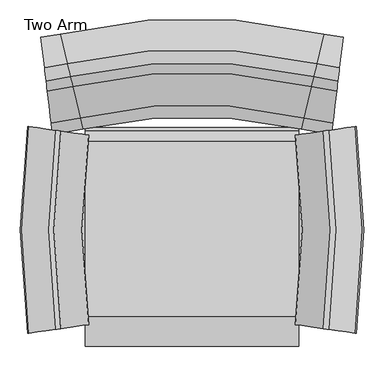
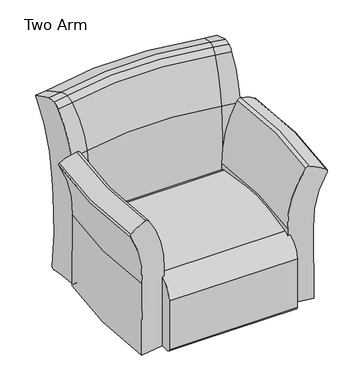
"""IFC4 building model written with IfcOpenShell, lengths in millimetres: furniture geometry, Steelcase Turnstone - Jenny - Seating - Lounge Chair : Two Arm."""

from ifc_helpers import new_model, si_unit, point, frame, frame_2d, origin, place, context, project, spatial, circle_curve, ellipse_curve, trimmed, segment, composite_curve, outline, extrude, source, transform, mapped, element, save
from ifc_brep_helpers import plane_surface, revolved_surface, advanced_brep


def two_arm_6be0adb5(model_context):
    return source(origin(), model_context, "Body", "SolidModel", [
        advanced_brep(
        [(338.5098126, 42.3528445, 662.4789574), (325.4819287, 44.2201227, 657.247673), (255.8979101, 54.1935554, 412.3486316), (248.568241, 55.2441122, 105.3934367), (268.92915, 52.3257962, 83.0261095), (356.1641561, 39.8224588, 83.0261095), (353.9234318, 40.1436204, 393.5179242), (406.2890311, 32.6380926, 620.5062548), (403.9913356, 32.9674199, 631.6323761), (338.5098126, 536.0945997, 662.4789574), (403.9913356, 545.4800243, 631.6323761), (406.2890311, 545.8093515, 620.5062548), (353.9234318, 538.3038238, 393.5179242), (356.1641561, 538.6249854, 83.0261095), (268.92915, 526.121648, 83.0261095), (248.568241, 523.203332, 105.3934367), (255.8979101, 524.2538887, 412.3486316), (325.4819287, 534.2273214, 657.247673)],
        [
            (0, 1, circle_curve(frame((335.7972968, 42.7416276, 650.2018378), z_axis=(-0.1418794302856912, -0.989883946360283, 0.0), x_axis=(-0.989883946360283, 0.1418794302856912, 0.0)), 12.5792115)),
            (1, 2, circle_curve(frame((662.6674144, -4.1084564, 426.9356418), z_axis=(-0.1418794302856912, -0.989883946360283, 0.0), x_axis=(-0.989883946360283, 0.1418794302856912, 0.0)), 411.1852807)),
            (2, 3, circle_curve(frame((-2293.785101, 419.6379839, 320.9153954), z_axis=(0.1418794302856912, 0.989883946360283, 0.0), x_axis=(-0.989883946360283, 0.1418794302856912, 0.0)), 2577.3616595)),
            (3, 4, circle_curve(frame((268.92915, 52.3257962, 103.6673891), z_axis=(-0.1418794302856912, -0.989883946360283, 0.0), x_axis=(-0.989883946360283, 0.1418794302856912, 0.0)), 20.6412796)),
            (4, 5),
            (5, 6, circle_curve(frame((-3376.7467903, 574.8581873, 210.7875713), z_axis=(-0.1418794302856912, -0.989883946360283, 0.0), x_axis=(-0.989883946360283, 0.1418794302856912, 0.0)), 3773.2228077)),
            (6, 7, circle_curve(frame((774.6383733, -20.157182, 414.1247817), z_axis=(0.1418794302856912, 0.989883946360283, 0.0), x_axis=(-0.989883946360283, 0.1418794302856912, 0.0)), 425.5136794)),
            (7, 8, circle_curve(frame((398.7600293, 33.7172196, 624.7246592), z_axis=(-0.1418794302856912, -0.989883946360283, 0.0), x_axis=(-0.989883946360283, 0.1418794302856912, 0.0)), 8.6974317)),
            (8, 0, circle_curve(frame((301.9143064, 47.5980549, 496.8440116), z_axis=(-0.1418794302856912, -0.989883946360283, 0.0), x_axis=(-0.989883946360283, 0.1418794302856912, 0.0)), 169.710573)),
            (9, 10, circle_curve(frame((301.9143064, 530.8493893, 496.8440116), z_axis=(-0.14187943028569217, 0.9898839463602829, 0.0), x_axis=(-0.9898839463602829, -0.14187943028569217, 0.0)), 169.710573)),
            (10, 11, circle_curve(frame((398.7600293, 544.7302245, 624.7246592), z_axis=(-0.14187943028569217, 0.9898839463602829, 0.0), x_axis=(-0.9898839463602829, -0.14187943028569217, 0.0)), 8.6974317)),
            (11, 12, circle_curve(frame((774.6383733, 598.6046262, 414.1247817), z_axis=(0.14187943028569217, -0.9898839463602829, 0.0), x_axis=(-0.9898839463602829, -0.14187943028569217, 0.0)), 425.5136794)),
            (12, 13, circle_curve(frame((-3376.7467903, 3.5892569, 210.7875713), z_axis=(-0.14187943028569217, 0.9898839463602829, 0.0), x_axis=(-0.9898839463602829, -0.14187943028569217, 0.0)), 3773.2228077)),
            (13, 14),
            (14, 15, circle_curve(frame((268.92915, 526.121648, 103.6673891), z_axis=(-0.14187943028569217, 0.9898839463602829, 0.0), x_axis=(-0.9898839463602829, -0.14187943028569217, 0.0)), 20.6412796)),
            (15, 16, circle_curve(frame((-2293.785101, 158.8094603, 320.9153954), z_axis=(0.14187943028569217, -0.9898839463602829, 0.0), x_axis=(-0.9898839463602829, -0.14187943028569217, 0.0)), 2577.3616595)),
            (16, 17, circle_curve(frame((662.6674144, 582.5559005, 426.9356418), z_axis=(-0.14187943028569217, 0.9898839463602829, 0.0), x_axis=(-0.9898839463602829, -0.14187943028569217, 0.0)), 411.1852807)),
            (17, 9, circle_curve(frame((335.7972968, 535.7058165, 650.2018378), z_axis=(-0.14187943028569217, 0.9898839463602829, 0.0), x_axis=(-0.9898839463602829, -0.14187943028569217, 0.0)), 12.5792115)),
            (17, 1, circle_curve(frame((-1383.8929209, 289.2237221, 657.247673), z_axis=(0.0, 0.0, -1.0), x_axis=(0.989883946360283, -0.1418794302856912, 0.0)), 1726.8436929)),
            (0, 9, circle_curve(frame((-1383.8929209, 289.2237221, 662.4789574), z_axis=(0.0, 0.0, 1.0), x_axis=(0.989883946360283, -0.1418794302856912, 0.0)), 1740.0047145)),
            (16, 2, circle_curve(frame((-1383.8929209, 289.2237221, 412.3486316), z_axis=(0.0, 0.0, -1.0), x_axis=(0.989883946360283, -0.1418794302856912, 0.0)), 1656.5485651)),
            (15, 3, circle_curve(frame((-1383.8929209, 289.2237221, 105.3934367), z_axis=(0.0, 0.0, -1.0), x_axis=(0.989883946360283, -0.1418794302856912, 0.0)), 1649.1439909)),
            (14, 4, circle_curve(frame((-1383.8929209, 289.2237221, 83.0261095), z_axis=(0.0, 0.0, -1.0), x_axis=(0.989883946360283, -0.1418794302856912, 0.0)), 1669.7129769)),
            (13, 5, circle_curve(frame((-1383.8929209, 289.2237221, 83.0261095), z_axis=(0.0, 0.0, -1.0), x_axis=(0.989883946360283, -0.1418794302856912, 0.0)), 1757.8394754)),
            (12, 6, circle_curve(frame((-1383.8929209, 289.2237221, 393.5179242), z_axis=(0.0, 0.0, -1.0), x_axis=(0.989883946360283, -0.1418794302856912, 0.0)), 1755.5758521)),
            (11, 7, circle_curve(frame((-1383.8929209, 289.2237221, 620.5062548), z_axis=(0.0, 0.0, -1.0), x_axis=(0.989883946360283, -0.1418794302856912, 0.0)), 1808.4765982)),
            (10, 8, circle_curve(frame((-1383.8929209, 289.2237221, 631.6323761), z_axis=(0.0, 0.0, -1.0), x_axis=(0.989883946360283, -0.1418794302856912, 0.0)), 1806.1554216)),
        ],
        [
            plane_surface(frame((321.793924, 44.7487221, 0.0), z_axis=(-0.14187943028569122, -0.9898839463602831, 0.0), x_axis=(0.0, 0.0, 1.0))),
            plane_surface(frame((321.793924, 533.6987221, 0.0), z_axis=(-0.1418794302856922, 0.9898839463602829, 0.0), x_axis=(0.0, 0.0, 1.0))),
            revolved_surface(trimmed(ellipse_curve(frame((335.7972968, 42.7416276, 650.2018378), z_axis=(-0.1418794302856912, -0.989883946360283, 0.0), x_axis=(-0.989883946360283, 0.1418794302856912, 0.0)), 12.5792115, 12.5792115), [point((338.5098126, 42.3528445, 662.4789574))], [point((325.4819287, 44.2201227, 657.247673))], True, "CARTESIAN"), (-1383.8929209, 289.2237221, 0.0), (0.0, 0.0, 1.0)),
            revolved_surface(trimmed(ellipse_curve(frame((662.6674144, -4.1084564, 426.9356418), z_axis=(-0.1418794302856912, -0.989883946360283, 0.0), x_axis=(-0.989883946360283, 0.1418794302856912, 0.0)), 411.1852807, 411.1852807), [point((325.4819287, 44.2201227, 657.247673))], [point((255.8979101, 54.1935554, 412.3486316))], True, "CARTESIAN"), (-1383.8929209, 289.2237221, 0.0), (0.0, 0.0, 1.0)),
            revolved_surface(trimmed(ellipse_curve(frame((-2293.785101, 419.6379839, 320.9153954), z_axis=(0.1418794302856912, 0.989883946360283, 0.0), x_axis=(-0.989883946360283, 0.1418794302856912, 0.0)), 2577.3616595, 2577.3616595), [point((255.8979101, 54.1935554, 412.3486316))], [point((248.568241, 55.2441122, 105.3934367))], True, "CARTESIAN"), (-1383.8929209, 289.2237221, 0.0), (0.0, 0.0, 1.0)),
            revolved_surface(trimmed(ellipse_curve(frame((268.92915, 52.3257962, 103.6673891), z_axis=(-0.1418794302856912, -0.989883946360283, 0.0), x_axis=(-0.989883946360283, 0.1418794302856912, 0.0)), 20.6412796, 20.6412796), [point((248.568241, 55.2441122, 105.3934367))], [point((268.92915, 52.3257962, 83.0261095))], True, "CARTESIAN"), (-1383.8929209, 289.2237221, 0.0), (0.0, 0.0, 1.0)),
            plane_surface(frame((-1383.8929209, 289.2237221, 83.0261095), z_axis=(0.0, 0.0, -1.0000000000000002), x_axis=(0.9898839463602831, -0.14187943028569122, 0.0))),
            revolved_surface(trimmed(ellipse_curve(frame((-3376.7467903, 574.8581873, 210.7875713), z_axis=(-0.1418794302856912, -0.989883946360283, 0.0), x_axis=(-0.989883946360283, 0.1418794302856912, 0.0)), 3773.2228077, 3773.2228077), [point((356.1641561, 39.8224588, 83.0261095))], [point((353.9234318, 40.1436204, 393.5179242))], True, "CARTESIAN"), (-1383.8929209, 289.2237221, 0.0), (0.0, 0.0, 1.0)),
            revolved_surface(trimmed(ellipse_curve(frame((774.6383733, -20.157182, 414.1247817), z_axis=(0.1418794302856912, 0.989883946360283, 0.0), x_axis=(-0.989883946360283, 0.1418794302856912, 0.0)), 425.5136794, 425.5136794), [point((353.9234318, 40.1436204, 393.5179242))], [point((406.2890311, 32.6380926, 620.5062548))], True, "CARTESIAN"), (-1383.8929209, 289.2237221, 0.0), (0.0, 0.0, 1.0)),
            revolved_surface(trimmed(ellipse_curve(frame((398.7600293, 33.7172196, 624.7246592), z_axis=(-0.1418794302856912, -0.989883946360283, 0.0), x_axis=(-0.989883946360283, 0.1418794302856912, 0.0)), 8.6974317, 8.6974317), [point((406.2890311, 32.6380926, 620.5062548))], [point((403.9913356, 32.9674199, 631.6323761))], True, "CARTESIAN"), (-1383.8929209, 289.2237221, 0.0), (0.0, 0.0, 1.0)),
            revolved_surface(trimmed(ellipse_curve(frame((301.9143064, 47.5980549, 496.8440116), z_axis=(-0.1418794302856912, -0.989883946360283, 0.0), x_axis=(-0.989883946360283, 0.1418794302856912, 0.0)), 169.710573, 169.710573), [point((403.9913356, 32.9674199, 631.6323761))], [point((338.5098126, 42.3528445, 662.4789574))], True, "CARTESIAN"), (-1383.8929209, 289.2237221, 0.0), (0.0, 0.0, 1.0)),
        ],
        [
            (0, [[1, 2, 3, 4, 5, 6, 7, 8, 9]]),
            (1, [[10, 11, 12, 13, 14, 15, 16, 17, 18]]),
            (2, [[19, -1, 20, -18]]),
            (3, [[21, -2, -19, -17]]),
            (4, [[22, -3, -21, -16]]),
            (5, [[23, -4, -22, -15]]),
            (6, [[24, -5, -23, -14]]),
            (7, [[25, -6, -24, -13]]),
            (8, [[26, -7, -25, -12]]),
            (9, [[27, -8, -26, -11]]),
            (10, [[-20, -9, -27, -10]]),
        ],
    ),
        advanced_brep(
        [(-338.5098126, 42.3528445, 662.4789574), (-403.9913356, 32.9674199, 631.6323761), (-406.2890311, 32.6380926, 620.5062548), (-353.9234318, 40.1436204, 393.5179242), (-356.1641561, 39.8224588, 83.0261095), (-268.92915, 52.3257962, 83.0261095), (-248.568241, 55.2441122, 105.3934367), (-255.8979101, 54.1935554, 412.3486316), (-325.4819287, 44.2201227, 657.247673), (-338.5098126, 536.0945997, 662.4789574), (-325.4819287, 534.2273214, 657.247673), (-255.8979101, 524.2538887, 412.3486316), (-248.568241, 523.203332, 105.3934367), (-268.92915, 526.121648, 83.0261095), (-356.1641561, 538.6249854, 83.0261095), (-353.9234318, 538.3038238, 393.5179242), (-406.2890311, 545.8093515, 620.5062548), (-403.9913356, 545.4800243, 631.6323761)],
        [
            (0, 1, circle_curve(frame((-301.9143064, 47.5980549, 496.8440116), z_axis=(0.1418794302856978, -0.9898839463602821, 0.0), x_axis=(-0.9898839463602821, -0.1418794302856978, 0.0)), 169.710573)),
            (1, 2, circle_curve(frame((-398.7600293, 33.7172196, 624.7246592), z_axis=(0.1418794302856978, -0.9898839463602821, 0.0), x_axis=(-0.9898839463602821, -0.1418794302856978, 0.0)), 8.6974317)),
            (2, 3, circle_curve(frame((-774.6383733, -20.157182, 414.1247817), z_axis=(-0.1418794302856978, 0.9898839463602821, 0.0), x_axis=(-0.9898839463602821, -0.1418794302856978, 0.0)), 425.5136794)),
            (3, 4, circle_curve(frame((3376.7467903, 574.8581873, 210.7875713), z_axis=(0.1418794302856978, -0.9898839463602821, 0.0), x_axis=(-0.9898839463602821, -0.1418794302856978, 0.0)), 3773.2228077)),
            (4, 5),
            (5, 6, circle_curve(frame((-268.92915, 52.3257962, 103.6673891), z_axis=(0.1418794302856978, -0.9898839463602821, 0.0), x_axis=(-0.9898839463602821, -0.1418794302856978, 0.0)), 20.6412796)),
            (6, 7, circle_curve(frame((2293.785101, 419.6379839, 320.9153954), z_axis=(-0.1418794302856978, 0.9898839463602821, 0.0), x_axis=(-0.9898839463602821, -0.1418794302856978, 0.0)), 2577.3616595)),
            (7, 8, circle_curve(frame((-662.6674144, -4.1084564, 426.9356418), z_axis=(0.1418794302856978, -0.9898839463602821, 0.0), x_axis=(-0.9898839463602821, -0.1418794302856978, 0.0)), 411.1852807)),
            (8, 0, circle_curve(frame((-335.7972968, 42.7416276, 650.2018378), z_axis=(0.1418794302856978, -0.9898839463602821, 0.0), x_axis=(-0.9898839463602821, -0.1418794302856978, 0.0)), 12.5792115)),
            (9, 10, circle_curve(frame((-335.7972968, 535.7058165, 650.2018378), z_axis=(0.1418794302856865, 0.9898839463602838, 0.0), x_axis=(-0.9898839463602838, 0.1418794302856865, 0.0)), 12.5792115)),
            (10, 11, circle_curve(frame((-662.6674144, 582.5559005, 426.9356418), z_axis=(0.1418794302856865, 0.9898839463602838, 0.0), x_axis=(-0.9898839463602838, 0.1418794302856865, 0.0)), 411.1852807)),
            (11, 12, circle_curve(frame((2293.785101, 158.8094603, 320.9153954), z_axis=(-0.1418794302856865, -0.9898839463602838, 0.0), x_axis=(-0.9898839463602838, 0.1418794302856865, 0.0)), 2577.3616595)),
            (12, 13, circle_curve(frame((-268.92915, 526.121648, 103.6673891), z_axis=(0.1418794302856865, 0.9898839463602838, 0.0), x_axis=(-0.9898839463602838, 0.1418794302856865, 0.0)), 20.6412796)),
            (13, 14),
            (14, 15, circle_curve(frame((3376.7467903, 3.5892569, 210.7875713), z_axis=(0.1418794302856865, 0.9898839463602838, 0.0), x_axis=(-0.9898839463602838, 0.1418794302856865, 0.0)), 3773.2228077)),
            (15, 16, circle_curve(frame((-774.6383733, 598.6046262, 414.1247817), z_axis=(-0.1418794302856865, -0.9898839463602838, 0.0), x_axis=(-0.9898839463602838, 0.1418794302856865, 0.0)), 425.5136794)),
            (16, 17, circle_curve(frame((-398.7600293, 544.7302245, 624.7246592), z_axis=(0.1418794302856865, 0.9898839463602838, 0.0), x_axis=(-0.9898839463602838, 0.1418794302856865, 0.0)), 8.6974317)),
            (17, 9, circle_curve(frame((-301.9143064, 530.8493893, 496.8440116), z_axis=(0.1418794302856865, 0.9898839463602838, 0.0), x_axis=(-0.9898839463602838, 0.1418794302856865, 0.0)), 169.710573)),
            (17, 1, circle_curve(frame((1383.8929209, 289.2237221, 631.6323761), z_axis=(0.0, 0.0, 1.0), x_axis=(-0.9898839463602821, -0.1418794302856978, 0.0)), 1806.1554216)),
            (0, 9, circle_curve(frame((1383.8929209, 289.2237221, 662.4789574), z_axis=(0.0, 0.0, -1.0), x_axis=(-0.9898839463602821, -0.1418794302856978, 0.0)), 1740.0047145)),
            (16, 2, circle_curve(frame((1383.8929209, 289.2237221, 620.5062548), z_axis=(0.0, 0.0, 1.0), x_axis=(-0.9898839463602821, -0.1418794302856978, 0.0)), 1808.4765982)),
            (15, 3, circle_curve(frame((1383.8929209, 289.2237221, 393.5179242), z_axis=(0.0, 0.0, 1.0), x_axis=(-0.9898839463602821, -0.1418794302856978, 0.0)), 1755.5758521)),
            (14, 4, circle_curve(frame((1383.8929209, 289.2237221, 83.0261095), z_axis=(0.0, 0.0, 1.0), x_axis=(-0.9898839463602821, -0.1418794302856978, 0.0)), 1757.8394754)),
            (13, 5, circle_curve(frame((1383.8929209, 289.2237221, 83.0261095), z_axis=(0.0, 0.0, 1.0), x_axis=(-0.9898839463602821, -0.1418794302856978, 0.0)), 1669.7129769)),
            (12, 6, circle_curve(frame((1383.8929209, 289.2237221, 105.3934367), z_axis=(0.0, 0.0, 1.0), x_axis=(-0.9898839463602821, -0.1418794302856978, 0.0)), 1649.1439909)),
            (11, 7, circle_curve(frame((1383.8929209, 289.2237221, 412.3486316), z_axis=(0.0, 0.0, 1.0), x_axis=(-0.9898839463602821, -0.1418794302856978, 0.0)), 1656.5485651)),
            (10, 8, circle_curve(frame((1383.8929209, 289.2237221, 657.247673), z_axis=(0.0, 0.0, 1.0), x_axis=(-0.9898839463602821, -0.1418794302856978, 0.0)), 1726.8436929)),
        ],
        [
            plane_surface(frame((-321.793924, 44.7487221, 0.0), z_axis=(0.1418794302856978, -0.9898839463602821, 0.0), x_axis=(0.0, 0.0, 1.0))),
            plane_surface(frame((-321.793924, 533.6987221, 0.0), z_axis=(0.1418794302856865, 0.9898839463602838, 0.0), x_axis=(0.0, 0.0, 1.0))),
            revolved_surface(trimmed(ellipse_curve(frame((-301.9143064, 47.5980549, 496.8440116), z_axis=(0.1418794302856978, -0.9898839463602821, 0.0), x_axis=(-0.9898839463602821, -0.1418794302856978, 0.0)), 169.710573, 169.710573), [point((-338.5098126, 42.3528445, 662.4789574))], [point((-403.9913356, 32.9674199, 631.6323761))], True, "CARTESIAN"), (1383.8929209, 289.2237221, 0.0), (0.0, 0.0, -1.0)),
            revolved_surface(trimmed(ellipse_curve(frame((-398.7600293, 33.7172196, 624.7246592), z_axis=(0.1418794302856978, -0.9898839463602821, 0.0), x_axis=(-0.9898839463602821, -0.1418794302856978, 0.0)), 8.6974317, 8.6974317), [point((-403.9913356, 32.9674199, 631.6323761))], [point((-406.2890311, 32.6380926, 620.5062548))], True, "CARTESIAN"), (1383.8929209, 289.2237221, 0.0), (0.0, 0.0, -1.0)),
            revolved_surface(trimmed(ellipse_curve(frame((-774.6383733, -20.157182, 414.1247817), z_axis=(-0.1418794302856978, 0.9898839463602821, 0.0), x_axis=(-0.9898839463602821, -0.1418794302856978, 0.0)), 425.5136794, 425.5136794), [point((-406.2890311, 32.6380926, 620.5062548))], [point((-353.9234318, 40.1436204, 393.5179242))], True, "CARTESIAN"), (1383.8929209, 289.2237221, 0.0), (0.0, 0.0, -1.0)),
            revolved_surface(trimmed(ellipse_curve(frame((3376.7467903, 574.8581873, 210.7875713), z_axis=(0.1418794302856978, -0.9898839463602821, 0.0), x_axis=(-0.9898839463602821, -0.1418794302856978, 0.0)), 3773.2228077, 3773.2228077), [point((-353.9234318, 40.1436204, 393.5179242))], [point((-356.1641561, 39.8224588, 83.0261095))], True, "CARTESIAN"), (1383.8929209, 289.2237221, 0.0), (0.0, 0.0, -1.0)),
            plane_surface(frame((1383.8929209, 289.2237221, 83.0261095), z_axis=(0.0, 0.0, -1.0), x_axis=(-0.9898839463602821, -0.1418794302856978, 0.0))),
            revolved_surface(trimmed(ellipse_curve(frame((-268.92915, 52.3257962, 103.6673891), z_axis=(0.1418794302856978, -0.9898839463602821, 0.0), x_axis=(-0.9898839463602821, -0.1418794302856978, 0.0)), 20.6412796, 20.6412796), [point((-268.92915, 52.3257962, 83.0261095))], [point((-248.568241, 55.2441122, 105.3934367))], True, "CARTESIAN"), (1383.8929209, 289.2237221, 0.0), (0.0, 0.0, -1.0)),
            revolved_surface(trimmed(ellipse_curve(frame((2293.785101, 419.6379839, 320.9153954), z_axis=(-0.1418794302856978, 0.9898839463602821, 0.0), x_axis=(-0.9898839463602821, -0.1418794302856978, 0.0)), 2577.3616595, 2577.3616595), [point((-248.568241, 55.2441122, 105.3934367))], [point((-255.8979101, 54.1935554, 412.3486316))], True, "CARTESIAN"), (1383.8929209, 289.2237221, 0.0), (0.0, 0.0, -1.0)),
            revolved_surface(trimmed(ellipse_curve(frame((-662.6674144, -4.1084564, 426.9356418), z_axis=(0.1418794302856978, -0.9898839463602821, 0.0), x_axis=(-0.9898839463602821, -0.1418794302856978, 0.0)), 411.1852807, 411.1852807), [point((-255.8979101, 54.1935554, 412.3486316))], [point((-325.4819287, 44.2201227, 657.247673))], True, "CARTESIAN"), (1383.8929209, 289.2237221, 0.0), (0.0, 0.0, -1.0)),
            revolved_surface(trimmed(ellipse_curve(frame((-335.7972968, 42.7416276, 650.2018378), z_axis=(0.1418794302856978, -0.9898839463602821, 0.0), x_axis=(-0.9898839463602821, -0.1418794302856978, 0.0)), 12.5792115, 12.5792115), [point((-325.4819287, 44.2201227, 657.247673))], [point((-338.5098126, 42.3528445, 662.4789574))], True, "CARTESIAN"), (1383.8929209, 289.2237221, 0.0), (0.0, 0.0, -1.0)),
        ],
        [
            (0, [[1, 2, 3, 4, 5, 6, 7, 8, 9]]),
            (1, [[10, 11, 12, 13, 14, 15, 16, 17, 18]]),
            (2, [[19, -1, 20, -18]]),
            (3, [[21, -2, -19, -17]]),
            (4, [[22, -3, -21, -16]]),
            (5, [[23, -4, -22, -15]]),
            (6, [[24, -5, -23, -14]]),
            (7, [[25, -6, -24, -13]]),
            (8, [[26, -7, -25, -12]]),
            (9, [[27, -8, -26, -11]]),
            (10, [[-20, -9, -27, -10]]),
        ],
    ),
        extrude(outline(composite_curve([segment(trimmed(circle_curve(frame_2d((295.9448235, -1001.9734672)), 1409.8455938), [point((73.6948235, 390.2440215))], [point((509.3958902, 391.6201753))], False, "CARTESIAN"), True, "CONTINUOUS"), segment(trimmed(circle_curve(frame_2d((504.9855283, 362.825509)), 29.1304669), [point((509.3958902, 391.6201753))], [point((533.8942756, 366.4127691))], False, "CARTESIAN"), True, "CONTINUOUS"), segment(trimmed(circle_curve(frame_2d((-629.8512072, 222.0046519)), 1172.6709909), [point((533.8942756, 366.4127691))], [point((536.0042378, 95.7575362))], False, "CARTESIAN"), True, "CONTINUOUS"), segment(trimmed(circle_curve(frame_2d((523.173628, 97.1469259)), 12.9056171), [point((536.0042378, 95.7575362))], [point((523.4804674, 84.244957))], False, "CARTESIAN"), True, "CONTINUOUS"), segment(trimmed(circle_curve(frame_2d((320.8347088, 8605.0850806)), 8523.249481), [point((523.4804674, 84.244957))], [point((12.6556229, 87.4089088))], False, "CARTESIAN"), True, "CONTINUOUS"), segment(trimmed(circle_curve(frame_2d((13.132469, 100.5883266)), 13.1880413), [point((12.6556229, 87.4089088))], [point((0.0, 99.3789084))], False, "CARTESIAN"), True, "CONTINUOUS"), segment(trimmed(circle_curve(frame_2d((1151.5533041, 205.4297595)), 1156.4263034), [point((0.0, 99.3789084))], [point((0.0, 311.4806107))], False, "CARTESIAN"), True, "CONTINUOUS"), segment(trimmed(circle_curve(frame_2d((87.555619, 303.4172862)), 87.9261259), [point((0.0, 311.4806107))], [point((73.6948235, 390.2440215))], False, "CARTESIAN"), True, "CONTINUOUS")], self_intersect=False)), frame((-264.16, 0.0, 0.0), z_axis=(1.0, 0.0, 0.0), x_axis=(0.0, 1.0, 0.0)), (0.0, 0.0, 1.0), 529.082),
        advanced_brep(
        [(-365.286616, 691.4565759, 813.9027777), (-374.1581434, 766.5452606, 782.2939395), (-362.648411, 669.1267858, 474.5451921), (-361.9534589, 663.244705, 404.1661408), (-361.3770167, 658.3656933, 241.4197302), (-362.6146384, 668.8409343, 92.210125), (-361.3954165, 658.5214293, 82.3084573), (-349.0009614, 553.6146536, 81.9987921), (-346.7002803, 534.1416683, 97.0710008), (-349.0142051, 553.7267481, 627.8736036), (-358.4008193, 633.1751322, 797.7221008), (-361.3730638, 658.3322355, 814.4538477), (-326.9667617, 774.979302, 782.2939395), (-309.2801577, 701.4660474, 813.9027777), (-304.020535, 679.604757, 474.5451921), (-302.6350528, 673.8460877, 404.1661408), (-301.4858364, 669.0694421, 241.4197302), (-303.9532047, 679.3249029, 92.210125), (-301.5225189, 669.2219106, 82.3084573), (-276.8124763, 566.5161761, 81.9987921), (-272.2257535, 547.451752, 97.0710008), (-276.8388793, 566.6259188, 627.8736036), (-295.5523794, 644.4074023, 797.7221008), (-301.4779556, 669.0366863, 814.4538477), (326.9667617, 774.979302, 782.2939395), (309.2801577, 701.4660474, 813.9027777), (304.020535, 679.604757, 474.5451921), (302.6350528, 673.8460877, 404.1661408), (301.4858364, 669.0694421, 241.4197302), (303.9532047, 679.3249029, 92.210125), (301.5225189, 669.2219106, 82.3084573), (276.8124763, 566.5161761, 81.9987921), (272.2257535, 547.451752, 97.0710008), (276.8388793, 566.6259188, 627.8736036), (295.5523794, 644.4074023, 797.7221008), (301.4779556, 669.0366863, 814.4538477), (365.286616, 691.4565759, 813.9027777), (361.3730638, 658.3322355, 814.4538477), (358.4008193, 633.1751322, 797.7221008), (349.0142051, 553.7267481, 627.8736036), (346.7002803, 534.1416683, 97.0710008), (349.0009614, 553.6146536, 81.9987921), (361.3954165, 658.5214293, 82.3084573), (362.6146384, 668.8409343, 92.210125), (361.3770167, 658.3656933, 241.4197302), (361.9534589, 663.244705, 404.1661408), (362.648411, 669.1267858, 474.5451921), (374.1581434, 766.5452606, 782.2939395)],
        [
            (0, 1, circle_curve(frame((-341.1261096, 486.9618391, 215.0940543), z_axis=(-0.9930928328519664, -0.11733126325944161, 0.0), x_axis=(-0.11733126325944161, 0.9930928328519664, 0.0)), 633.2248531)),
            (1, 2, circle_curve(frame((-441.9489126, 1340.3269208, 428.618251), z_axis=(0.9930928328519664, 0.11733126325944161, 0.0), x_axis=(-0.11733126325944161, 0.9930928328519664, 0.0)), 677.4270991)),
            (2, 3, circle_curve(frame((-106.0716484, -1502.5411649, 623.1418041), z_axis=(-0.9930928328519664, -0.11733126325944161, 0.0), x_axis=(-0.11733126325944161, 0.9930928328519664, 0.0)), 2191.8152925)),
            (3, 4, circle_curve(frame((-498.0432857, 1815.1101831, 287.7047166), z_axis=(0.9930928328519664, 0.11733126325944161, 0.0), x_axis=(-0.11733126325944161, 0.9930928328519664, 0.0)), 1165.7091335)),
            (4, 5, circle_curve(frame((-645.5581159, 3063.6769889, 337.6638027), z_axis=(0.9930928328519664, 0.11733126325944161, 0.0), x_axis=(-0.11733126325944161, 0.9930928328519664, 0.0)), 2423.9521958)),
            (5, 6, circle_curve(frame((-361.5543466, 659.8666153, 91.290321), z_axis=(-0.9930928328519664, -0.11733126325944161, 0.0), x_axis=(-0.11733126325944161, 0.9930928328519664, 0.0)), 9.0834278)),
            (6, 7, circle_curve(frame((-355.3163018, 607.0677497, -261.2499371), z_axis=(0.9930928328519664, 0.11733126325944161, 0.0), x_axis=(-0.11733126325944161, 0.9930928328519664, 0.0)), 347.443243)),
            (7, 8, circle_curve(frame((-348.6908883, 550.9901919, 98.8517567), z_axis=(-0.9930928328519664, -0.11733126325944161, 0.0), x_axis=(-0.11733126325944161, 0.9930928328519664, 0.0)), 17.0589085)),
            (8, 9, circle_curve(frame((-566.1189152, 2391.3029031, 293.3582769), z_axis=(-0.9930928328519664, -0.11733126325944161, 0.0), x_axis=(-0.11733126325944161, 0.9930928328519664, 0.0)), 1880.3513194)),
            (9, 10, circle_curve(frame((-390.9633635, 908.7847898, 563.2382651), z_axis=(-0.9930928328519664, -0.11733126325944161, 0.0), x_axis=(-0.11733126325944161, 0.9930928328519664, 0.0)), 363.3230957)),
            (10, 11, circle_curve(frame((-363.2305214, 674.0537729, 762.9432742), z_axis=(-0.9930928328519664, -0.11733126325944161, 0.0), x_axis=(-0.11733126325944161, 0.9930928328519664, 0.0)), 53.8883667)),
            (11, 0, circle_curve(frame((-363.2305214, 674.0537729, 762.9432742), z_axis=(-0.9930928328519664, -0.11733126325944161, 0.0), x_axis=(-0.11733126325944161, 0.9930928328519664, 0.0)), 53.8883667)),
            (12, 1, circle_curve(frame((-421.6517332, 1168.5314176, 782.2939395), z_axis=(0.0, 0.0, -1.0), x_axis=(0.1173312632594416, -0.9930928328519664, 0.0)), 404.7820543)),
            (0, 13, circle_curve(frame((-421.6517332, 1168.5314176, 813.9027777), z_axis=(0.0, 0.0, 1.0), x_axis=(0.1173312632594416, -0.9930928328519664, 0.0)), 480.3929964)),
            (13, 12, circle_curve(frame((-261.1128813, 501.2617994, 215.0940543), z_axis=(-0.9722568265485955, -0.23391593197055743, 0.0), x_axis=(-0.23391593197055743, 0.9722568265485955, 0.0)), 633.2248531)),
            (14, 2, circle_curve(frame((-421.6517332, 1168.5314176, 474.5451921), z_axis=(0.0, 0.0, -1.0), x_axis=(0.1173312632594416, -0.9930928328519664, 0.0)), 502.8780948)),
            (12, 14, circle_curve(frame((-462.1169383, 1336.7224922, 428.618251), z_axis=(0.9722568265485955, 0.23391593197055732, 0.0), x_axis=(-0.23391593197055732, 0.9722568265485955, 0.0)), 677.4270991)),
            (15, 3, circle_curve(frame((-421.6517332, 1168.5314176, 404.1661408), z_axis=(0.0, 0.0, -1.0), x_axis=(0.1173312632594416, -0.9930928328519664, 0.0)), 508.8010867)),
            (14, 15, circle_curve(frame((207.500358, -1446.4995912, 623.1418041), z_axis=(-0.9722568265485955, -0.2339159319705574, 0.0), x_axis=(-0.2339159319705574, 0.9722568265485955, 0.0)), 2191.8152925)),
            (16, 4, circle_curve(frame((-421.6517332, 1168.5314176, 241.4197302), z_axis=(0.0, 0.0, -1.0), x_axis=(0.1173312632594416, -0.9930928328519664, 0.0)), 513.714033)),
            (15, 16, circle_curve(frame((-573.9487486, 1801.5443625, 287.7047166), z_axis=(0.9722568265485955, 0.23391593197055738, 0.0), x_axis=(-0.23391593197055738, 0.9722568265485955, 0.0)), 1165.7091335)),
            (17, 5, circle_curve(frame((-421.6517332, 1168.5314176, 92.210125), z_axis=(0.0, 0.0, -1.0), x_axis=(0.1173312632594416, -0.9930928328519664, 0.0)), 503.1659344)),
            (16, 17, circle_curve(frame((-868.0397524, 3023.9150817, 337.6638027), z_axis=(0.9722568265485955, 0.2339159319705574, 0.0), x_axis=(-0.2339159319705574, 0.9722568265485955, 0.0)), 2423.9521958)),
            (18, 6, circle_curve(frame((-421.6517332, 1168.5314176, 82.3084573), z_axis=(0.0, 0.0, -1.0), x_axis=(0.1173312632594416, -0.9930928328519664, 0.0)), 513.5572138)),
            (17, 18, circle_curve(frame((-301.8393678, 670.5388734, 91.290321), z_axis=(-0.9722568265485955, -0.23391593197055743, 0.0), x_axis=(-0.23391593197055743, 0.9722568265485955, 0.0)), 9.0834278)),
            (19, 7, circle_curve(frame((-421.6517332, 1168.5314176, 81.9987921), z_axis=(0.0, 0.0, -1.0), x_axis=(0.1173312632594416, -0.9930928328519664, 0.0)), 619.193638)),
            (18, 19, circle_curve(frame((-289.4029717, 618.8477768, -261.2499371), z_axis=(0.9722568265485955, 0.2339159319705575, 0.0), x_axis=(-0.2339159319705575, 0.9722568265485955, 0.0)), 347.443243)),
            (20, 8, circle_curve(frame((-421.6517332, 1168.5314176, 97.0710008), z_axis=(0.0, 0.0, -1.0), x_axis=(0.1173312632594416, -0.9930928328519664, 0.0)), 638.8020619)),
            (19, 20, circle_curve(frame((-276.194303, 563.9467781, 98.8517567), z_axis=(-0.9722568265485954, -0.23391593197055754, 0.0), x_axis=(-0.23391593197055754, 0.9722568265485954, 0.0)), 17.0589085)),
            (21, 9, circle_curve(frame((-421.6517332, 1168.5314176, 627.8736036), z_axis=(0.0, 0.0, -1.0), x_axis=(0.1173312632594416, -0.9930928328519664, 0.0)), 619.0807637)),
            (20, 21, circle_curve(frame((-709.6668332, 2365.6480262, 293.3582769), z_axis=(-0.9722568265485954, -0.23391593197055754, 0.0), x_axis=(-0.23391593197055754, 0.9722568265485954, 0.0)), 1880.3513194)),
            (22, 10, circle_curve(frame((-421.6517332, 1168.5314176, 797.7221008), z_axis=(0.0, 0.0, -1.0), x_axis=(0.1173312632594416, -0.9930928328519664, 0.0)), 539.0797997)),
            (21, 22, circle_curve(frame((-360.4702681, 914.2345144, 563.2382651), z_axis=(-0.9722568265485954, -0.23391593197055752, 0.0), x_axis=(-0.23391593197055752, 0.9722568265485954, 0.0)), 363.3230957)),
            (23, 11, circle_curve(frame((-421.6517332, 1168.5314176, 814.4538477), z_axis=(0.0, 0.0, -1.0), x_axis=(0.1173312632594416, -0.9930928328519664, 0.0)), 513.7477235)),
            (22, 23, circle_curve(frame((-305.1810516, 684.4283713, 762.9432742), z_axis=(-0.9722568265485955, -0.2339159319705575, 0.0), x_axis=(-0.2339159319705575, 0.9722568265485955, 0.0)), 53.8883667)),
            (23, 13, circle_curve(frame((-305.1810516, 684.4283713, 762.9432742), z_axis=(-0.9722568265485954, -0.23391593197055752, 0.0), x_axis=(-0.23391593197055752, 0.9722568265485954, 0.0)), 53.8883667)),
            (24, 12, circle_curve(frame((0.0, -584.0374329, 782.2939395), z_axis=(0.0, 0.0, 1.0), x_axis=(-0.23391593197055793, 0.9722568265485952, 0.0)), 1397.7960327)),
            (13, 25, circle_curve(frame((0.0, -584.0374329, 813.9027777), z_axis=(0.0, 0.0, -1.0), x_axis=(-0.23391593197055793, 0.9722568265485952, 0.0)), 1322.1850906)),
            (25, 24, circle_curve(frame((261.1128813, 501.2617994, 215.0940543), z_axis=(-0.9722568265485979, 0.23391593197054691, 0.0), x_axis=(0.23391593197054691, 0.9722568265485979, 0.0)), 633.2248531)),
            (26, 14, circle_curve(frame((0.0, -584.0374329, 474.5451921), z_axis=(0.0, 0.0, 1.0), x_axis=(-0.23391593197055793, 0.9722568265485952, 0.0)), 1299.6999922)),
            (24, 26, circle_curve(frame((462.1169383, 1336.7224922, 428.618251), z_axis=(0.9722568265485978, -0.23391593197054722, 0.0), x_axis=(0.23391593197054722, 0.9722568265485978, 0.0)), 677.4270991)),
            (27, 15, circle_curve(frame((0.0, -584.0374329, 404.1661408), z_axis=(0.0, 0.0, 1.0), x_axis=(-0.23391593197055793, 0.9722568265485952, 0.0)), 1293.7770003)),
            (26, 27, circle_curve(frame((-207.500358, -1446.4995912, 623.1418041), z_axis=(-0.9722568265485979, 0.23391593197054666, 0.0), x_axis=(0.23391593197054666, 0.9722568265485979, 0.0)), 2191.8152925)),
            (28, 16, circle_curve(frame((0.0, -584.0374329, 241.4197302), z_axis=(0.0, 0.0, 1.0), x_axis=(-0.23391593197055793, 0.9722568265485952, 0.0)), 1288.864054)),
            (27, 28, circle_curve(frame((573.9487486, 1801.5443625, 287.7047166), z_axis=(0.9722568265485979, -0.23391593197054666, 0.0), x_axis=(0.23391593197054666, 0.9722568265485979, 0.0)), 1165.7091335)),
            (29, 17, circle_curve(frame((0.0, -584.0374329, 92.210125), z_axis=(0.0, 0.0, 1.0), x_axis=(-0.23391593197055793, 0.9722568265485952, 0.0)), 1299.4121525)),
            (28, 29, circle_curve(frame((868.0397524, 3023.9150817, 337.6638027), z_axis=(0.9722568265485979, -0.23391593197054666, 0.0), x_axis=(0.23391593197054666, 0.9722568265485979, 0.0)), 2423.9521958)),
            (30, 18, circle_curve(frame((0.0, -584.0374329, 82.3084573), z_axis=(0.0, 0.0, 1.0), x_axis=(-0.23391593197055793, 0.9722568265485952, 0.0)), 1289.0208732)),
            (29, 30, circle_curve(frame((301.8393678, 670.5388734, 91.290321), z_axis=(-0.9722568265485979, 0.23391593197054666, 0.0), x_axis=(0.23391593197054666, 0.9722568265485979, 0.0)), 9.0834278)),
            (31, 19, circle_curve(frame((0.0, -584.0374329, 81.9987921), z_axis=(0.0, 0.0, 1.0), x_axis=(-0.23391593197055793, 0.9722568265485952, 0.0)), 1183.384449)),
            (30, 31, circle_curve(frame((289.4029717, 618.8477768, -261.2499371), z_axis=(0.9722568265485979, -0.23391593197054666, 0.0), x_axis=(0.23391593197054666, 0.9722568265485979, 0.0)), 347.443243)),
            (32, 20, circle_curve(frame((0.0, -584.0374329, 97.0710008), z_axis=(0.0, 0.0, 1.0), x_axis=(-0.23391593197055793, 0.9722568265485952, 0.0)), 1163.776025)),
            (31, 32, circle_curve(frame((276.194303, 563.9467781, 98.8517567), z_axis=(-0.9722568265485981, 0.23391593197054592, 0.0), x_axis=(0.23391593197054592, 0.9722568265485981, 0.0)), 17.0589085)),
            (33, 21, circle_curve(frame((0.0, -584.0374329, 627.8736036), z_axis=(0.0, 0.0, 1.0), x_axis=(-0.23391593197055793, 0.9722568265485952, 0.0)), 1183.4973232)),
            (32, 33, circle_curve(frame((709.6668332, 2365.6480262, 293.3582769), z_axis=(-0.9722568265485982, 0.23391593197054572, 0.0), x_axis=(0.23391593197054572, 0.9722568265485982, 0.0)), 1880.3513194)),
            (34, 22, circle_curve(frame((0.0, -584.0374329, 797.7221008), z_axis=(0.0, 0.0, 1.0), x_axis=(-0.23391593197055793, 0.9722568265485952, 0.0)), 1263.4982873)),
            (33, 34, circle_curve(frame((360.4702681, 914.2345144, 563.2382651), z_axis=(-0.9722568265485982, 0.2339159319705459, 0.0), x_axis=(0.2339159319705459, 0.9722568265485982, 0.0)), 363.3230957)),
            (35, 23, circle_curve(frame((0.0, -584.0374329, 814.4538477), z_axis=(0.0, 0.0, 1.0), x_axis=(-0.23391593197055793, 0.9722568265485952, 0.0)), 1288.8303635)),
            (34, 35, circle_curve(frame((305.1810516, 684.4283713, 762.9432742), z_axis=(-0.972256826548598, 0.23391593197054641, 0.0), x_axis=(0.23391593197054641, 0.972256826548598, 0.0)), 53.8883667)),
            (35, 25, circle_curve(frame((305.1810516, 684.4283713, 762.9432742), z_axis=(-0.972256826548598, 0.23391593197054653, 0.0), x_axis=(0.23391593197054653, 0.972256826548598, 0.0)), 53.8883667)),
            (36, 37, circle_curve(frame((363.2305214, 674.0537729, 762.9432742), z_axis=(0.9930928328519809, -0.11733126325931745, 0.0), x_axis=(0.11733126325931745, 0.9930928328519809, 0.0)), 53.8883667)),
            (37, 38, circle_curve(frame((363.2305214, 674.0537729, 762.9432742), z_axis=(0.9930928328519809, -0.11733126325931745, 0.0), x_axis=(0.11733126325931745, 0.9930928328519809, 0.0)), 53.8883667)),
            (38, 39, circle_curve(frame((390.9633635, 908.7847898, 563.2382651), z_axis=(0.9930928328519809, -0.11733126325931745, 0.0), x_axis=(0.11733126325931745, 0.9930928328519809, 0.0)), 363.3230957)),
            (39, 40, circle_curve(frame((566.1189152, 2391.3029031, 293.3582769), z_axis=(0.9930928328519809, -0.11733126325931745, 0.0), x_axis=(0.11733126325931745, 0.9930928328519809, 0.0)), 1880.3513194)),
            (40, 41, circle_curve(frame((348.6908883, 550.9901919, 98.8517567), z_axis=(0.9930928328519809, -0.11733126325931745, 0.0), x_axis=(0.11733126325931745, 0.9930928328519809, 0.0)), 17.0589085)),
            (41, 42, circle_curve(frame((355.3163018, 607.0677497, -261.2499371), z_axis=(-0.9930928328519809, 0.11733126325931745, 0.0), x_axis=(0.11733126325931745, 0.9930928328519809, 0.0)), 347.443243)),
            (42, 43, circle_curve(frame((361.5543466, 659.8666153, 91.290321), z_axis=(0.9930928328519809, -0.11733126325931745, 0.0), x_axis=(0.11733126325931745, 0.9930928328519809, 0.0)), 9.0834278)),
            (43, 44, circle_curve(frame((645.5581159, 3063.6769889, 337.6638027), z_axis=(-0.9930928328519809, 0.11733126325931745, 0.0), x_axis=(0.11733126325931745, 0.9930928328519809, 0.0)), 2423.9521958)),
            (44, 45, circle_curve(frame((498.0432857, 1815.1101831, 287.7047166), z_axis=(-0.9930928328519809, 0.11733126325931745, 0.0), x_axis=(0.11733126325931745, 0.9930928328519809, 0.0)), 1165.7091335)),
            (45, 46, circle_curve(frame((106.0716484, -1502.5411649, 623.1418041), z_axis=(0.9930928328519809, -0.11733126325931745, 0.0), x_axis=(0.11733126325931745, 0.9930928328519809, 0.0)), 2191.8152925)),
            (46, 47, circle_curve(frame((441.9489126, 1340.3269208, 428.618251), z_axis=(-0.9930928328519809, 0.11733126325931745, 0.0), x_axis=(0.11733126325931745, 0.9930928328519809, 0.0)), 677.4270991)),
            (47, 36, circle_curve(frame((341.1261096, 486.9618391, 215.0940543), z_axis=(0.9930928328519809, -0.11733126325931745, 0.0), x_axis=(0.11733126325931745, 0.9930928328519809, 0.0)), 633.2248531)),
            (47, 24, circle_curve(frame((421.6517332, 1168.5314176, 782.2939395), z_axis=(0.0, 0.0, -1.0), x_axis=(-0.2339159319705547, -0.972256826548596, 0.0)), 404.7820543)),
            (25, 36, circle_curve(frame((421.6517332, 1168.5314176, 813.9027777), z_axis=(0.0, 0.0, 1.0), x_axis=(-0.2339159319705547, -0.972256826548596, 0.0)), 480.3929964)),
            (46, 26, circle_curve(frame((421.6517332, 1168.5314176, 474.5451921), z_axis=(0.0, 0.0, -1.0), x_axis=(-0.2339159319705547, -0.972256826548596, 0.0)), 502.8780948)),
            (45, 27, circle_curve(frame((421.6517332, 1168.5314176, 404.1661408), z_axis=(0.0, 0.0, -1.0), x_axis=(-0.2339159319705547, -0.972256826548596, 0.0)), 508.8010867)),
            (44, 28, circle_curve(frame((421.6517332, 1168.5314176, 241.4197302), z_axis=(0.0, 0.0, -1.0), x_axis=(-0.2339159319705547, -0.972256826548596, 0.0)), 513.714033)),
            (43, 29, circle_curve(frame((421.6517332, 1168.5314176, 92.210125), z_axis=(0.0, 0.0, -1.0), x_axis=(-0.2339159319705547, -0.972256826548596, 0.0)), 503.1659344)),
            (42, 30, circle_curve(frame((421.6517332, 1168.5314176, 82.3084573), z_axis=(0.0, 0.0, -1.0), x_axis=(-0.2339159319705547, -0.972256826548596, 0.0)), 513.5572138)),
            (41, 31, circle_curve(frame((421.6517332, 1168.5314176, 81.9987921), z_axis=(0.0, 0.0, -1.0), x_axis=(-0.2339159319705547, -0.972256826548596, 0.0)), 619.193638)),
            (40, 32, circle_curve(frame((421.6517332, 1168.5314176, 97.0710008), z_axis=(0.0, 0.0, -1.0), x_axis=(-0.2339159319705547, -0.972256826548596, 0.0)), 638.8020619)),
            (39, 33, circle_curve(frame((421.6517332, 1168.5314176, 627.8736036), z_axis=(0.0, 0.0, -1.0), x_axis=(-0.2339159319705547, -0.972256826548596, 0.0)), 619.0807637)),
            (38, 34, circle_curve(frame((421.6517332, 1168.5314176, 797.7221008), z_axis=(0.0, 0.0, -1.0), x_axis=(-0.2339159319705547, -0.972256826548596, 0.0)), 539.0797997)),
            (37, 35, circle_curve(frame((421.6517332, 1168.5314176, 814.4538477), z_axis=(0.0, 0.0, -1.0), x_axis=(-0.2339159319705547, -0.972256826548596, 0.0)), 513.7477235)),
        ],
        [
            plane_surface(frame((-355.6, 609.4689735, 0.0), z_axis=(-0.9930928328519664, -0.11733126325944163, 0.0), x_axis=(0.0, 0.0, 1.0))),
            revolved_surface(trimmed(ellipse_curve(frame((-341.1261096, 486.9618391, 215.0940543), z_axis=(-0.9930928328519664, -0.11733126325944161, 0.0), x_axis=(-0.11733126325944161, 0.9930928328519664, 0.0)), 633.2248531, 633.2248531), [point((-365.286616, 691.4565759, 813.9027777))], [point((-374.1581434, 766.5452606, 782.2939395))], True, "CARTESIAN"), (-421.6517332, 1168.5314176, 0.0), (0.0, 0.0, 1.0)),
            revolved_surface(trimmed(ellipse_curve(frame((-441.9489126, 1340.3269208, 428.618251), z_axis=(0.9930928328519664, 0.11733126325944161, 0.0), x_axis=(-0.11733126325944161, 0.9930928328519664, 0.0)), 677.4270991, 677.4270991), [point((-374.1581434, 766.5452606, 782.2939395))], [point((-362.648411, 669.1267858, 474.5451921))], True, "CARTESIAN"), (-421.6517332, 1168.5314176, 0.0), (0.0, 0.0, 1.0)),
            revolved_surface(trimmed(ellipse_curve(frame((-106.0716484, -1502.5411649, 623.1418041), z_axis=(-0.9930928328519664, -0.11733126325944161, 0.0), x_axis=(-0.11733126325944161, 0.9930928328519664, 0.0)), 2191.8152925, 2191.8152925), [point((-362.648411, 669.1267858, 474.5451921))], [point((-361.9534589, 663.244705, 404.1661408))], True, "CARTESIAN"), (-421.6517332, 1168.5314176, 0.0), (0.0, 0.0, 1.0)),
            revolved_surface(trimmed(ellipse_curve(frame((-498.0432857, 1815.1101831, 287.7047166), z_axis=(0.9930928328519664, 0.11733126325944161, 0.0), x_axis=(-0.11733126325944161, 0.9930928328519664, 0.0)), 1165.7091335, 1165.7091335), [point((-361.9534589, 663.244705, 404.1661408))], [point((-361.3770167, 658.3656933, 241.4197302))], True, "CARTESIAN"), (-421.6517332, 1168.5314176, 0.0), (0.0, 0.0, 1.0)),
            revolved_surface(trimmed(ellipse_curve(frame((-645.5581159, 3063.6769889, 337.6638027), z_axis=(0.9930928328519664, 0.11733126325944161, 0.0), x_axis=(-0.11733126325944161, 0.9930928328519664, 0.0)), 2423.9521958, 2423.9521958), [point((-361.3770167, 658.3656933, 241.4197302))], [point((-362.6146384, 668.8409343, 92.210125))], True, "CARTESIAN"), (-421.6517332, 1168.5314176, 0.0), (0.0, 0.0, 1.0)),
            revolved_surface(trimmed(ellipse_curve(frame((-361.5543466, 659.8666153, 91.290321), z_axis=(-0.9930928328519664, -0.11733126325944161, 0.0), x_axis=(-0.11733126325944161, 0.9930928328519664, 0.0)), 9.0834278, 9.0834278), [point((-362.6146384, 668.8409343, 92.210125))], [point((-361.3954165, 658.5214293, 82.3084573))], True, "CARTESIAN"), (-421.6517332, 1168.5314176, 0.0), (0.0, 0.0, 1.0)),
            revolved_surface(trimmed(ellipse_curve(frame((-355.3163018, 607.0677497, -261.2499371), z_axis=(0.9930928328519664, 0.11733126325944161, 0.0), x_axis=(-0.11733126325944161, 0.9930928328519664, 0.0)), 347.443243, 347.443243), [point((-361.3954165, 658.5214293, 82.3084573))], [point((-349.0009614, 553.6146536, 81.9987921))], True, "CARTESIAN"), (-421.6517332, 1168.5314176, 0.0), (0.0, 0.0, 1.0)),
            revolved_surface(trimmed(ellipse_curve(frame((-348.6908883, 550.9901919, 98.8517567), z_axis=(-0.9930928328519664, -0.11733126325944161, 0.0), x_axis=(-0.11733126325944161, 0.9930928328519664, 0.0)), 17.0589085, 17.0589085), [point((-349.0009614, 553.6146536, 81.9987921))], [point((-346.7002803, 534.1416683, 97.0710008))], True, "CARTESIAN"), (-421.6517332, 1168.5314176, 0.0), (0.0, 0.0, 1.0)),
            revolved_surface(trimmed(ellipse_curve(frame((-566.1189152, 2391.3029031, 293.3582769), z_axis=(-0.9930928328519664, -0.11733126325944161, 0.0), x_axis=(-0.11733126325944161, 0.9930928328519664, 0.0)), 1880.3513194, 1880.3513194), [point((-346.7002803, 534.1416683, 97.0710008))], [point((-349.0142051, 553.7267481, 627.8736036))], True, "CARTESIAN"), (-421.6517332, 1168.5314176, 0.0), (0.0, 0.0, 1.0)),
            revolved_surface(trimmed(ellipse_curve(frame((-390.9633635, 908.7847898, 563.2382651), z_axis=(-0.9930928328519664, -0.11733126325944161, 0.0), x_axis=(-0.11733126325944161, 0.9930928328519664, 0.0)), 363.3230957, 363.3230957), [point((-349.0142051, 553.7267481, 627.8736036))], [point((-358.4008193, 633.1751322, 797.7221008))], True, "CARTESIAN"), (-421.6517332, 1168.5314176, 0.0), (0.0, 0.0, 1.0)),
            revolved_surface(trimmed(ellipse_curve(frame((-363.2305214, 674.0537729, 762.9432742), z_axis=(-0.9930928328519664, -0.11733126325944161, 0.0), x_axis=(-0.11733126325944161, 0.9930928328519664, 0.0)), 53.8883667, 53.8883667), [point((-358.4008193, 633.1751322, 797.7221008))], [point((-361.3730638, 658.3322355, 814.4538477))], True, "CARTESIAN"), (-421.6517332, 1168.5314176, 0.0), (0.0, 0.0, 1.0)),
            revolved_surface(trimmed(ellipse_curve(frame((-363.2305214, 674.0537729, 762.9432742), z_axis=(-0.9930928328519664, -0.11733126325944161, 0.0), x_axis=(-0.11733126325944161, 0.9930928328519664, 0.0)), 53.8883667, 53.8883667), [point((-361.3730638, 658.3322355, 814.4538477))], [point((-365.286616, 691.4565759, 813.9027777))], True, "CARTESIAN"), (-421.6517332, 1168.5314176, 0.0), (0.0, 0.0, 1.0)),
            revolved_surface(trimmed(ellipse_curve(frame((-261.1128813, 501.2617994, 215.0940543), z_axis=(-0.9722568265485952, -0.23391593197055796, 0.0), x_axis=(-0.23391593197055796, 0.9722568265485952, 0.0)), 633.2248531, 633.2248531), [point((-309.2801577, 701.4660474, 813.9027777))], [point((-326.9667617, 774.979302, 782.2939395))], True, "CARTESIAN"), (0.0, -584.0374329, 0.0), (0.0, 0.0, -1.0)),
            revolved_surface(trimmed(ellipse_curve(frame((-462.1169383, 1336.7224922, 428.618251), z_axis=(0.9722568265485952, 0.23391593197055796, 0.0), x_axis=(-0.23391593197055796, 0.9722568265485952, 0.0)), 677.4270991, 677.4270991), [point((-326.9667617, 774.979302, 782.2939395))], [point((-304.020535, 679.604757, 474.5451921))], True, "CARTESIAN"), (0.0, -584.0374329, 0.0), (0.0, 0.0, -1.0)),
            revolved_surface(trimmed(ellipse_curve(frame((207.500358, -1446.4995912, 623.1418041), z_axis=(-0.9722568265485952, -0.23391593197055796, 0.0), x_axis=(-0.23391593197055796, 0.9722568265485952, 0.0)), 2191.8152925, 2191.8152925), [point((-304.020535, 679.604757, 474.5451921))], [point((-302.6350528, 673.8460877, 404.1661408))], True, "CARTESIAN"), (0.0, -584.0374329, 0.0), (0.0, 0.0, -1.0)),
            revolved_surface(trimmed(ellipse_curve(frame((-573.9487486, 1801.5443625, 287.7047166), z_axis=(0.9722568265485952, 0.23391593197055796, 0.0), x_axis=(-0.23391593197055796, 0.9722568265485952, 0.0)), 1165.7091335, 1165.7091335), [point((-302.6350528, 673.8460877, 404.1661408))], [point((-301.4858364, 669.0694421, 241.4197302))], True, "CARTESIAN"), (0.0, -584.0374329, 0.0), (0.0, 0.0, -1.0)),
            revolved_surface(trimmed(ellipse_curve(frame((-868.0397524, 3023.9150817, 337.6638027), z_axis=(0.9722568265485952, 0.23391593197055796, 0.0), x_axis=(-0.23391593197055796, 0.9722568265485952, 0.0)), 2423.9521958, 2423.9521958), [point((-301.4858364, 669.0694421, 241.4197302))], [point((-303.9532047, 679.3249029, 92.210125))], True, "CARTESIAN"), (0.0, -584.0374329, 0.0), (0.0, 0.0, -1.0)),
            revolved_surface(trimmed(ellipse_curve(frame((-301.8393678, 670.5388734, 91.290321), z_axis=(-0.9722568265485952, -0.23391593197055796, 0.0), x_axis=(-0.23391593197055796, 0.9722568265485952, 0.0)), 9.0834278, 9.0834278), [point((-303.9532047, 679.3249029, 92.210125))], [point((-301.5225189, 669.2219106, 82.3084573))], True, "CARTESIAN"), (0.0, -584.0374329, 0.0), (0.0, 0.0, -1.0)),
            revolved_surface(trimmed(ellipse_curve(frame((-289.4029717, 618.8477768, -261.2499371), z_axis=(0.9722568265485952, 0.23391593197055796, 0.0), x_axis=(-0.23391593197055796, 0.9722568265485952, 0.0)), 347.443243, 347.443243), [point((-301.5225189, 669.2219106, 82.3084573))], [point((-276.8124763, 566.5161761, 81.9987921))], True, "CARTESIAN"), (0.0, -584.0374329, 0.0), (0.0, 0.0, -1.0)),
            revolved_surface(trimmed(ellipse_curve(frame((-276.194303, 563.9467781, 98.8517567), z_axis=(-0.9722568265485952, -0.23391593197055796, 0.0), x_axis=(-0.23391593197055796, 0.9722568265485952, 0.0)), 17.0589085, 17.0589085), [point((-276.8124763, 566.5161761, 81.9987921))], [point((-272.2257535, 547.451752, 97.0710008))], True, "CARTESIAN"), (0.0, -584.0374329, 0.0), (0.0, 0.0, -1.0)),
            revolved_surface(trimmed(ellipse_curve(frame((-709.6668332, 2365.6480262, 293.3582769), z_axis=(-0.9722568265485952, -0.23391593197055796, 0.0), x_axis=(-0.23391593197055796, 0.9722568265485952, 0.0)), 1880.3513194, 1880.3513194), [point((-272.2257535, 547.451752, 97.0710008))], [point((-276.8388793, 566.6259188, 627.8736036))], True, "CARTESIAN"), (0.0, -584.0374329, 0.0), (0.0, 0.0, -1.0)),
            revolved_surface(trimmed(ellipse_curve(frame((-360.4702681, 914.2345144, 563.2382651), z_axis=(-0.9722568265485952, -0.23391593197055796, 0.0), x_axis=(-0.23391593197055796, 0.9722568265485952, 0.0)), 363.3230957, 363.3230957), [point((-276.8388793, 566.6259188, 627.8736036))], [point((-295.5523794, 644.4074023, 797.7221008))], True, "CARTESIAN"), (0.0, -584.0374329, 0.0), (0.0, 0.0, -1.0)),
            revolved_surface(trimmed(ellipse_curve(frame((-305.1810516, 684.4283713, 762.9432742), z_axis=(-0.9722568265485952, -0.23391593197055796, 0.0), x_axis=(-0.23391593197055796, 0.9722568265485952, 0.0)), 53.8883667, 53.8883667), [point((-295.5523794, 644.4074023, 797.7221008))], [point((-301.4779556, 669.0366863, 814.4538477))], True, "CARTESIAN"), (0.0, -584.0374329, 0.0), (0.0, 0.0, -1.0)),
            revolved_surface(trimmed(ellipse_curve(frame((-305.1810516, 684.4283713, 762.9432742), z_axis=(-0.9722568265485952, -0.23391593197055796, 0.0), x_axis=(-0.23391593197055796, 0.9722568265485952, 0.0)), 53.8883667, 53.8883667), [point((-301.4779556, 669.0366863, 814.4538477))], [point((-309.2801577, 701.4660474, 813.9027777))], True, "CARTESIAN"), (0.0, -584.0374329, 0.0), (0.0, 0.0, -1.0)),
            plane_surface(frame((355.6, 609.4689735, 0.0), z_axis=(0.993092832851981, -0.11733126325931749, 0.0), x_axis=(0.0, 0.0, 1.0))),
            revolved_surface(trimmed(ellipse_curve(frame((261.1128813, 501.2617994, 215.0940543), z_axis=(-0.972256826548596, 0.23391593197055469, 0.0), x_axis=(0.23391593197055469, 0.972256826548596, 0.0)), 633.2248531, 633.2248531), [point((309.2801577, 701.4660474, 813.9027777))], [point((326.9667617, 774.979302, 782.2939395))], True, "CARTESIAN"), (421.6517332, 1168.5314176, 0.0), (0.0, 0.0, 1.0)),
            revolved_surface(trimmed(ellipse_curve(frame((462.1169383, 1336.7224922, 428.618251), z_axis=(0.972256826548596, -0.23391593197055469, 0.0), x_axis=(0.23391593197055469, 0.972256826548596, 0.0)), 677.4270991, 677.4270991), [point((326.9667617, 774.979302, 782.2939395))], [point((304.020535, 679.604757, 474.5451921))], True, "CARTESIAN"), (421.6517332, 1168.5314176, 0.0), (0.0, 0.0, 1.0)),
            revolved_surface(trimmed(ellipse_curve(frame((-207.500358, -1446.4995912, 623.1418041), z_axis=(-0.972256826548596, 0.23391593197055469, 0.0), x_axis=(0.23391593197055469, 0.972256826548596, 0.0)), 2191.8152925, 2191.8152925), [point((304.020535, 679.604757, 474.5451921))], [point((302.6350528, 673.8460877, 404.1661408))], True, "CARTESIAN"), (421.6517332, 1168.5314176, 0.0), (0.0, 0.0, 1.0)),
            revolved_surface(trimmed(ellipse_curve(frame((573.9487486, 1801.5443625, 287.7047166), z_axis=(0.972256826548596, -0.23391593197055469, 0.0), x_axis=(0.23391593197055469, 0.972256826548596, 0.0)), 1165.7091335, 1165.7091335), [point((302.6350528, 673.8460877, 404.1661408))], [point((301.4858364, 669.0694421, 241.4197302))], True, "CARTESIAN"), (421.6517332, 1168.5314176, 0.0), (0.0, 0.0, 1.0)),
            revolved_surface(trimmed(ellipse_curve(frame((868.0397524, 3023.9150817, 337.6638027), z_axis=(0.972256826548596, -0.23391593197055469, 0.0), x_axis=(0.23391593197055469, 0.972256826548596, 0.0)), 2423.9521958, 2423.9521958), [point((301.4858364, 669.0694421, 241.4197302))], [point((303.9532047, 679.3249029, 92.210125))], True, "CARTESIAN"), (421.6517332, 1168.5314176, 0.0), (0.0, 0.0, 1.0)),
            revolved_surface(trimmed(ellipse_curve(frame((301.8393678, 670.5388734, 91.290321), z_axis=(-0.972256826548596, 0.23391593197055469, 0.0), x_axis=(0.23391593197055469, 0.972256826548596, 0.0)), 9.0834278, 9.0834278), [point((303.9532047, 679.3249029, 92.210125))], [point((301.5225189, 669.2219106, 82.3084573))], True, "CARTESIAN"), (421.6517332, 1168.5314176, 0.0), (0.0, 0.0, 1.0)),
            revolved_surface(trimmed(ellipse_curve(frame((289.4029717, 618.8477768, -261.2499371), z_axis=(0.972256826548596, -0.23391593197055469, 0.0), x_axis=(0.23391593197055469, 0.972256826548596, 0.0)), 347.443243, 347.443243), [point((301.5225189, 669.2219106, 82.3084573))], [point((276.8124763, 566.5161761, 81.9987921))], True, "CARTESIAN"), (421.6517332, 1168.5314176, 0.0), (0.0, 0.0, 1.0)),
            revolved_surface(trimmed(ellipse_curve(frame((276.194303, 563.9467781, 98.8517567), z_axis=(-0.972256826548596, 0.23391593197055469, 0.0), x_axis=(0.23391593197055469, 0.972256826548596, 0.0)), 17.0589085, 17.0589085), [point((276.8124763, 566.5161761, 81.9987921))], [point((272.2257535, 547.451752, 97.0710008))], True, "CARTESIAN"), (421.6517332, 1168.5314176, 0.0), (0.0, 0.0, 1.0)),
            revolved_surface(trimmed(ellipse_curve(frame((709.6668332, 2365.6480262, 293.3582769), z_axis=(-0.972256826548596, 0.23391593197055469, 0.0), x_axis=(0.23391593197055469, 0.972256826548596, 0.0)), 1880.3513194, 1880.3513194), [point((272.2257535, 547.451752, 97.0710008))], [point((276.8388793, 566.6259188, 627.8736036))], True, "CARTESIAN"), (421.6517332, 1168.5314176, 0.0), (0.0, 0.0, 1.0)),
            revolved_surface(trimmed(ellipse_curve(frame((360.4702681, 914.2345144, 563.2382651), z_axis=(-0.972256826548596, 0.23391593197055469, 0.0), x_axis=(0.23391593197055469, 0.972256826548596, 0.0)), 363.3230957, 363.3230957), [point((276.8388793, 566.6259188, 627.8736036))], [point((295.5523794, 644.4074023, 797.7221008))], True, "CARTESIAN"), (421.6517332, 1168.5314176, 0.0), (0.0, 0.0, 1.0)),
            revolved_surface(trimmed(ellipse_curve(frame((305.1810516, 684.4283713, 762.9432742), z_axis=(-0.972256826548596, 0.23391593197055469, 0.0), x_axis=(0.23391593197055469, 0.972256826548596, 0.0)), 53.8883667, 53.8883667), [point((295.5523794, 644.4074023, 797.7221008))], [point((301.4779556, 669.0366863, 814.4538477))], True, "CARTESIAN"), (421.6517332, 1168.5314176, 0.0), (0.0, 0.0, 1.0)),
            revolved_surface(trimmed(ellipse_curve(frame((305.1810516, 684.4283713, 762.9432742), z_axis=(-0.972256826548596, 0.23391593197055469, 0.0), x_axis=(0.23391593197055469, 0.972256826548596, 0.0)), 53.8883667, 53.8883667), [point((301.4779556, 669.0366863, 814.4538477))], [point((309.2801577, 701.4660474, 813.9027777))], True, "CARTESIAN"), (421.6517332, 1168.5314176, 0.0), (0.0, 0.0, 1.0)),
        ],
        [
            (0, [[1, 2, 3, 4, 5, 6, 7, 8, 9, 10, 11, 12]]),
            (1, [[13, -1, 14, 15]]),
            (2, [[16, -2, -13, 17]]),
            (3, [[18, -3, -16, 19]]),
            (4, [[20, -4, -18, 21]]),
            (5, [[22, -5, -20, 23]]),
            (6, [[24, -6, -22, 25]]),
            (7, [[26, -7, -24, 27]]),
            (8, [[28, -8, -26, 29]]),
            (9, [[30, -9, -28, 31]]),
            (10, [[32, -10, -30, 33]]),
            (11, [[34, -11, -32, 35]]),
            (12, [[-14, -12, -34, 36]]),
            (13, [[37, -15, 38, 39]]),
            (14, [[40, -17, -37, 41]]),
            (15, [[42, -19, -40, 43]]),
            (16, [[44, -21, -42, 45]]),
            (17, [[46, -23, -44, 47]]),
            (18, [[48, -25, -46, 49]]),
            (19, [[50, -27, -48, 51]]),
            (20, [[52, -29, -50, 53]]),
            (21, [[54, -31, -52, 55]]),
            (22, [[56, -33, -54, 57]]),
            (23, [[58, -35, -56, 59]]),
            (24, [[-38, -36, -58, 60]]),
            (25, [[61, 62, 63, 64, 65, 66, 67, 68, 69, 70, 71, 72]]),
            (26, [[73, -39, 74, -72]]),
            (27, [[75, -41, -73, -71]]),
            (28, [[76, -43, -75, -70]]),
            (29, [[77, -45, -76, -69]]),
            (30, [[78, -47, -77, -68]]),
            (31, [[79, -49, -78, -67]]),
            (32, [[80, -51, -79, -66]]),
            (33, [[81, -53, -80, -65]]),
            (34, [[82, -55, -81, -64]]),
            (35, [[83, -57, -82, -63]]),
            (36, [[84, -59, -83, -62]]),
            (37, [[-74, -60, -84, -61]]),
        ],
    ),
    ])


if __name__ == "__main__":
    model = new_model("IFC4")
    model_context = context("Model", 3, world=origin())
    ifc_project = project(units=[si_unit("LENGTHUNIT", "METRE", prefix="MILLI")], contexts=[model_context])
    site = spatial("IfcSite", under=ifc_project)
    building = spatial("IfcBuilding", under=site)
    placement = place(None, origin())
    two_arm_shape = two_arm_6be0adb5(model_context)
    element("IfcFurniture", 1, ObjectType="Steelcase Turnstone - Jenny - Seating - Lounge Chair : Two Arm", at=placement, inside=building, context=model_context, shape_type="MappedRepresentation", body=[
        mapped(two_arm_shape, transform((0.0, 0.0, 0.0), x_axis=(1.0, 0.0, 0.0), y_axis=(0.0, 1.0, 0.0), z_axis=(0.0, 0.0, 1.0))),
    ])
    save(model, "model.ifc")
